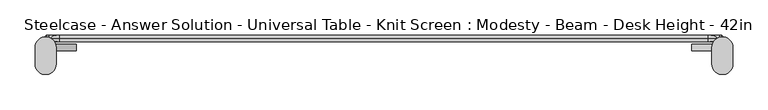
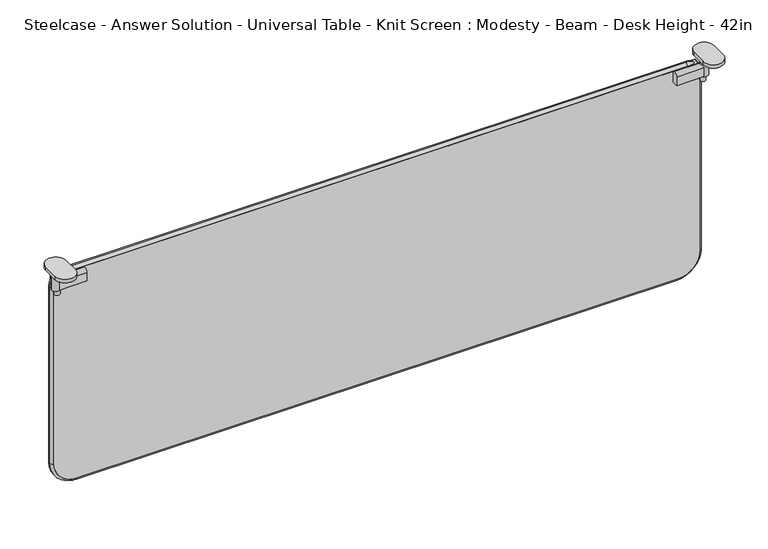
"""IFC4 building model written with IfcOpenShell, lengths in millimetres: furniture geometry, Steelcase - Answer Solution - Universal Table - Knit Screen : Modesty - Beam - Desk Height - 42in."""

from ifc_helpers import new_model, si_unit, point, frame, frame_2d, origin, place, context, project, spatial, polyline, circle_curve, ellipse_curve, trimmed, segment, composite_curve, outline, extrude, source, transform, mapped, element, save
from ifc_brep_helpers import plane_surface, cylinder_surface, revolved_surface, advanced_brep


def steelcase_answer_solution_universal_table_knit_screen_46a00a25(model_context):
    return source(origin(), model_context, "Body", "SolidModel", [
        extrude(outline(composite_curve([segment(polyline([(-29.128946, 557.1716837), (-29.128946, 570.5329841)]), True, "CONTINUOUS"), segment(trimmed(circle_curve(frame_2d((-24.4350465, 570.5329841)), 4.6938995), [point((-29.128946, 570.5329841))], [point((-19.7411469, 570.5329841))], False, "CARTESIAN"), True, "CONTINUOUS"), segment(polyline([(-19.7411469, 570.5329841), (-19.7411469, 557.1716837), (-29.128946, 557.1716837)]), True, "CONTINUOUS")], self_intersect=False)), frame((969.0167228, 0.0, 0.0), z_axis=(1.0, 0.0, 0.0), x_axis=(0.0, 1.0, 0.0)), (0.0, 0.0, 1.0), 43.5285515),
        extrude(outline(composite_curve([segment(trimmed(circle_curve(frame_2d((1010.6143327, -24.4352196)), 3.96875), [point((1014.5830827, -24.4352196))], [point((1006.6455827, -24.4352196))], False, "CARTESIAN"), True, "CONTINUOUS"), segment(trimmed(circle_curve(frame_2d((1010.6143327, -24.4352196)), 3.96875), [point((1006.6455827, -24.4352196))], [point((1014.5830827, -24.4352196))], False, "CARTESIAN"), True, "CONTINUOUS")], self_intersect=False)), frame((0.0, 0.0, 549.0915626), z_axis=(0.0, 0.0, 1.0), x_axis=(1.0, 0.0, 0.0)), (0.0, 0.0, 1.0), 8.0801211),
        extrude(outline(composite_curve([segment(trimmed(circle_curve(frame_2d((1012.5452743, -24.4352196)), 5.8800133), [point((1018.4252876, -24.4352196))], [point((1006.665261, -24.4352196))], False, "CARTESIAN"), True, "CONTINUOUS"), segment(trimmed(circle_curve(frame_2d((1012.5452743, -24.4352196)), 5.8800133), [point((1006.665261, -24.4352196))], [point((1018.4252876, -24.4352196))], False, "CARTESIAN"), True, "CONTINUOUS")], self_intersect=False)), frame((0.0, 0.0, 557.1716837), z_axis=(0.0, 0.0, 1.0), x_axis=(1.0, 0.0, 0.0)), (0.0, 0.0, 1.0), 34.3007611),
        extrude(outline(composite_curve([segment(polyline([(1027.601332, -24.6349615), (1027.601332, -48.0866189)]), True, "CONTINUOUS"), segment(trimmed(circle_curve(frame_2d((1012.545565, -48.0866189)), 15.0557671), [point((1027.601332, -48.0866189))], [point((997.4897979, -48.0866189))], False, "CARTESIAN"), True, "CONTINUOUS"), segment(polyline([(997.4897979, -48.0866189), (997.4897979, -24.6349615)]), True, "CONTINUOUS"), segment(trimmed(circle_curve(frame_2d((1012.545565, -24.6349615)), 15.0557671), [point((997.4897979, -24.6349615))], [point((1027.601332, -24.6349615))], False, "CARTESIAN"), True, "CONTINUOUS")], self_intersect=False)), frame((0.0, 0.0, 591.4724448), z_axis=(0.0, 0.0, 1.0), x_axis=(1.0, 0.0, 0.0)), (0.0, 0.0, 1.0), 5.4275552),
        extrude(outline(composite_curve([segment(polyline([(-29.128946, 557.1716837), (-29.128946, 570.5329841)]), True, "CONTINUOUS"), segment(trimmed(circle_curve(frame_2d((-24.4350465, 570.5329841)), 4.6938995), [point((-29.128946, 570.5329841))], [point((-19.7411469, 570.5329841))], False, "CARTESIAN"), True, "CONTINUOUS"), segment(polyline([(-19.7411469, 570.5329841), (-19.7411469, 557.1716837), (-29.128946, 557.1716837)]), True, "CONTINUOUS")], self_intersect=False)), frame((47.6108911, 0.0, 0.0), z_axis=(1.0, 0.0, 0.0), x_axis=(0.0, 1.0, 0.0)), (0.0, 0.0, 1.0), 43.5285515),
        extrude(outline(composite_curve([segment(trimmed(circle_curve(frame_2d((49.5418327, -24.4352196)), 3.96875), [point((45.5730827, -24.4352196))], [point((53.5105827, -24.4352196))], False, "CARTESIAN"), True, "CONTINUOUS"), segment(trimmed(circle_curve(frame_2d((49.5418327, -24.4352196)), 3.96875), [point((53.5105827, -24.4352196))], [point((45.5730827, -24.4352196))], False, "CARTESIAN"), True, "CONTINUOUS")], self_intersect=False)), frame((0.0, 0.0, 549.0915626), z_axis=(0.0, 0.0, 1.0), x_axis=(1.0, 0.0, 0.0)), (0.0, 0.0, 1.0), 8.0801211),
        extrude(outline(composite_curve([segment(trimmed(circle_curve(frame_2d((47.6108911, -24.4352196)), 5.8800133), [point((41.7308778, -24.4352196))], [point((53.4909043, -24.4352196))], False, "CARTESIAN"), True, "CONTINUOUS"), segment(trimmed(circle_curve(frame_2d((47.6108911, -24.4352196)), 5.8800133), [point((53.4909043, -24.4352196))], [point((41.7308778, -24.4352196))], False, "CARTESIAN"), True, "CONTINUOUS")], self_intersect=False)), frame((0.0, 0.0, 557.1716837), z_axis=(0.0, 0.0, 1.0), x_axis=(1.0, 0.0, 0.0)), (0.0, 0.0, 1.0), 34.3007611),
        extrude(outline(composite_curve([segment(trimmed(circle_curve(frame_2d((47.6106004, -24.6349615)), 15.0557671), [point((32.5548333, -24.6349615))], [point((62.6663674, -24.6349615))], False, "CARTESIAN"), True, "CONTINUOUS"), segment(polyline([(62.6663674, -24.6349615), (62.6663674, -48.0866189)]), True, "CONTINUOUS"), segment(trimmed(circle_curve(frame_2d((47.6106004, -48.0866189)), 15.0557671), [point((62.6663674, -48.0866189))], [point((32.5548333, -48.0866189))], False, "CARTESIAN"), True, "CONTINUOUS"), segment(polyline([(32.5548333, -48.0866189), (32.5548333, -24.6349615)]), True, "CONTINUOUS")], self_intersect=False)), frame((0.0, 0.0, 591.4724448), z_axis=(0.0, 0.0, 1.0), x_axis=(1.0, 0.0, 0.0)), (0.0, 0.0, 1.0), 5.4275552),
        extrude(outline(composite_curve([segment(trimmed(circle_curve(frame_2d((275.3734529, 977.5969049)), 33.0004615), [point((242.3729913, 977.5969049))], [point((275.3734529, 1010.5973664))], False, "CARTESIAN"), True, "CONTINUOUS"), segment(polyline([(275.3734529, 1010.5973664), (568.7143507, 1010.5973664)]), True, "CONTINUOUS"), segment(trimmed(circle_curve(frame_2d((568.7143507, 1007.7924906)), 2.8048758), [point((568.7143507, 1010.5973664))], [point((571.5192266, 1007.7924906))], False, "CARTESIAN"), True, "CONTINUOUS"), segment(polyline([(571.5192266, 1007.7924906), (571.5192266, 51.8743664)]), True, "CONTINUOUS"), segment(trimmed(circle_curve(frame_2d((569.2036591, 51.8743664)), 2.3155675), [point((571.5192266, 51.8743664))], [point((569.2036591, 49.5587989))], False, "CARTESIAN"), True, "CONTINUOUS"), segment(polyline([(569.2036591, 49.5587989), (276.2900738, 49.5587989)]), True, "CONTINUOUS"), segment(trimmed(circle_curve(frame_2d((276.2900738, 83.4758814)), 33.9170825), [point((276.2900738, 49.5587989))], [point((242.3729913, 83.4758814))], False, "CARTESIAN"), True, "CONTINUOUS"), segment(polyline([(242.3729913, 83.4758814), (242.3729913, 977.5969049)]), True, "CONTINUOUS")], self_intersect=False)), frame((0.0, -16.5783031, 0.0), z_axis=(0.0, 1.0, 0.0), x_axis=(0.0, 0.0, 1.0)), (0.0, 0.0, 1.0), 9.6878455),
        advanced_brep(
        [(45.5730839, -11.7343804, 554.0906591), (66.9873664, -11.7343804, 575.5049416), (66.9873664, -6.8904577, 571.5192266), (49.5587989, -6.8904577, 554.0906591), (49.5587989, -16.5783031, 554.0906591), (66.9873664, -16.5783031, 571.5192266), (49.5587989, -6.8904577, 276.2900738), (45.5730839, -11.7343804, 276.2900738), (49.5587989, -16.5783031, 276.2900738), (83.4758814, -11.7343804, 238.3872763), (83.4758814, -6.8904577, 242.3729913), (83.4758814, -16.5783031, 242.3729913), (977.5969049, -6.8904577, 242.3729913), (977.5969049, -11.7343804, 238.3872763), (977.5969049, -16.5783031, 242.3729913), (1014.5830815, -11.7343804, 275.3734529), (1010.5973664, -6.8904577, 275.3734529), (1010.5973664, -16.5783031, 275.3734529), (1010.5973664, -6.8904577, 553.6013507), (1014.5830815, -11.7343804, 553.6013507), (1010.5973664, -16.5783031, 553.6013507), (992.6794906, -11.7343804, 575.5049416), (992.6794906, -6.8904577, 571.5192266), (992.6794906, -16.5783031, 571.5192266)],
        [
            (0, 1, circle_curve(frame((66.9873664, -11.7343804, 554.0906591), z_axis=(0.0, 1.0, 0.0), x_axis=(0.0, 0.0, 1.0)), 21.4142825)),
            (1, 2, circle_curve(frame((66.9873664, -11.7343804, 570.5686238), z_axis=(-1.0, 0.0, 0.0), x_axis=(0.0, 0.0, 1.0)), 4.9363178)),
            (2, 3, circle_curve(frame((66.9873664, -6.8904577, 554.0906591), z_axis=(0.0, -1.0, 0.0), x_axis=(0.0, 0.0, 1.0)), 17.4285675)),
            (3, 0, circle_curve(frame((50.5094016, -11.7343804, 554.0906591), z_axis=(0.0, 0.0, 1.0), x_axis=(-1.0, 0.0, 0.0)), 4.9363178)),
            (4, 5, circle_curve(frame((66.9873664, -16.5783031, 554.0906591), z_axis=(0.0, 1.0, 0.0), x_axis=(0.0, 0.0, 1.0)), 17.4285675)),
            (5, 1, circle_curve(frame((66.9873664, -11.7343804, 570.5686238), z_axis=(-1.0, 0.0, 0.0), x_axis=(0.0, 0.0, 1.0)), 4.9363178)),
            (0, 4, circle_curve(frame((50.5094016, -11.7343804, 554.0906591), z_axis=(0.0, 0.0, 1.0), x_axis=(-1.0, 0.0, 0.0)), 4.9363178)),
            (2, 5),
            (4, 3),
            (3, 6),
            (6, 7, circle_curve(frame((50.5094016, -11.7343804, 276.2900738), z_axis=(0.0, 0.0, 1.0), x_axis=(-1.0, 0.0, 0.0)), 4.9363178)),
            (7, 0),
            (7, 8, circle_curve(frame((50.5094016, -11.7343804, 276.2900738), z_axis=(0.0, 0.0, 1.0), x_axis=(-1.0, 0.0, 0.0)), 4.9363178)),
            (8, 4),
            (8, 6),
            (9, 7, circle_curve(frame((83.4758814, -11.7343804, 276.2900738), z_axis=(0.0, 1.0, 0.0), x_axis=(-1.0, 0.0, 0.0)), 37.9027975)),
            (6, 10, circle_curve(frame((83.4758814, -6.8904577, 276.2900738), z_axis=(0.0, -1.0, 0.0), x_axis=(-1.0, 0.0, 0.0)), 33.9170825)),
            (10, 9, circle_curve(frame((83.4758814, -11.7343804, 243.323594), z_axis=(-1.0, 0.0, 0.0), x_axis=(0.0, 0.0, -1.0)), 4.9363178)),
            (11, 8, circle_curve(frame((83.4758814, -16.5783031, 276.2900738), z_axis=(0.0, 1.0, 0.0), x_axis=(-1.0, 0.0, 0.0)), 33.9170825)),
            (9, 11, circle_curve(frame((83.4758814, -11.7343804, 243.323594), z_axis=(-1.0, 0.0, 0.0), x_axis=(0.0, 0.0, -1.0)), 4.9363178)),
            (11, 10),
            (10, 12),
            (12, 13, circle_curve(frame((977.5969049, -11.7343804, 243.323594), z_axis=(-1.0, 0.0, 0.0), x_axis=(0.0, 0.0, -1.0)), 4.9363178)),
            (13, 9),
            (13, 14, circle_curve(frame((977.5969049, -11.7343804, 243.323594), z_axis=(-1.0, 0.0, 0.0), x_axis=(0.0, 0.0, -1.0)), 4.9363178)),
            (14, 11),
            (14, 12),
            (15, 13, circle_curve(frame((977.5969049, -11.7343804, 275.3734529), z_axis=(0.0, 1.0, 0.0), x_axis=(0.0, 0.0, -1.0)), 36.9861766)),
            (12, 16, circle_curve(frame((977.5969049, -6.8904577, 275.3734529), z_axis=(0.0, -1.0, 0.0), x_axis=(0.0, 0.0, -1.0)), 33.0004615)),
            (16, 15, circle_curve(frame((1009.6467637, -11.7343804, 275.3734529), z_axis=(0.0, 0.0, -1.0), x_axis=(1.0, 0.0, 0.0)), 4.9363178)),
            (17, 14, circle_curve(frame((977.5969049, -16.5783031, 275.3734529), z_axis=(0.0, 1.0, 0.0), x_axis=(0.0, 0.0, -1.0)), 33.0004615)),
            (15, 17, circle_curve(frame((1009.6467637, -11.7343804, 275.3734529), z_axis=(0.0, 0.0, -1.0), x_axis=(1.0, 0.0, 0.0)), 4.9363178)),
            (17, 16),
            (16, 18),
            (18, 19, circle_curve(frame((1009.6467637, -11.7343804, 553.6013507), z_axis=(0.0, 0.0, -1.0), x_axis=(1.0, 0.0, 0.0)), 4.9363178)),
            (19, 15),
            (19, 20, circle_curve(frame((1009.6467637, -11.7343804, 553.6013507), z_axis=(0.0, 0.0, -1.0), x_axis=(1.0, 0.0, 0.0)), 4.9363178)),
            (20, 17),
            (20, 18),
            (21, 19, circle_curve(frame((992.6794906, -11.7343804, 553.6013507), z_axis=(0.0, 1.0, 0.0), x_axis=(1.0, 0.0, 0.0)), 21.9035909)),
            (18, 22, circle_curve(frame((992.6794906, -6.8904577, 553.6013507), z_axis=(0.0, -1.0, 0.0), x_axis=(1.0, 0.0, 0.0)), 17.9178758)),
            (22, 21, circle_curve(frame((992.6794906, -11.7343804, 570.5686238), z_axis=(1.0, 0.0, 0.0), x_axis=(0.0, 0.0, 1.0)), 4.9363178)),
            (23, 20, circle_curve(frame((992.6794906, -16.5783031, 553.6013507), z_axis=(0.0, 1.0, 0.0), x_axis=(1.0, 0.0, 0.0)), 17.9178758)),
            (21, 23, circle_curve(frame((992.6794906, -11.7343804, 570.5686238), z_axis=(1.0, 0.0, 0.0), x_axis=(0.0, 0.0, 1.0)), 4.9363178)),
            (23, 22),
            (22, 2),
            (1, 21),
            (5, 23),
        ],
        [
            revolved_surface(trimmed(ellipse_curve(frame((66.9873664, -11.7343804, 570.5686238), z_axis=(1.0, 0.0, 0.0), x_axis=(0.0, 0.0, 1.0)), 4.9363178, 4.9363178), [point((66.9873664, -6.8904577, 571.5192266))], [point((66.9873664, -11.7343804, 575.5049416))], True, "CARTESIAN"), (66.9873664, -11.7343804, 554.0906591), (0.0, -1.0, 0.0)),
            revolved_surface(trimmed(ellipse_curve(frame((66.9873664, -11.7343804, 570.5686238), z_axis=(1.0, 0.0, 0.0), x_axis=(0.0, 0.0, 1.0)), 4.9363178, 4.9363178), [point((66.9873664, -11.7343804, 575.5049416))], [point((66.9873664, -16.5783031, 571.5192266))], True, "CARTESIAN"), (66.9873664, -11.7343804, 554.0906591), (0.0, -1.0, 0.0)),
            revolved_surface(polyline([(66.9873664, -16.5783031, 571.5192266), (66.9873664, -6.8904577, 571.5192266)]), (66.9873664, -11.7343804, 554.0906591), (0.0, -1.0, 0.0)),
            cylinder_surface(frame((50.5094016, -11.7343804, 554.0906591), z_axis=(0.0, 0.0, 1.0), x_axis=(-1.0, 0.0, 0.0)), 4.9363178),
            plane_surface(frame((49.5587989, -16.5783031, 554.0906591), z_axis=(1.0, 0.0, 0.0), x_axis=(0.0, 0.0, -1.0))),
            revolved_surface(trimmed(ellipse_curve(frame((50.5094016, -11.7343804, 276.2900738), z_axis=(0.0, 0.0, 1.0), x_axis=(-1.0, 0.0, 0.0)), 4.9363178, 4.9363178), [point((49.5587989, -6.8904577, 276.2900738))], [point((45.5730839, -11.7343804, 276.2900738))], True, "CARTESIAN"), (83.4758814, -11.7343804, 276.2900738), (0.0, -1.0, 0.0)),
            revolved_surface(trimmed(ellipse_curve(frame((50.5094016, -11.7343804, 276.2900738), z_axis=(0.0, 0.0, 1.0), x_axis=(-1.0, 0.0, 0.0)), 4.9363178, 4.9363178), [point((45.5730839, -11.7343804, 276.2900738))], [point((49.5587989, -16.5783031, 276.2900738))], True, "CARTESIAN"), (83.4758814, -11.7343804, 276.2900738), (0.0, -1.0, 0.0)),
            revolved_surface(polyline([(49.558798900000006, -16.5783031, 276.2900738), (49.558798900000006, -6.8904577, 276.2900738)]), (83.4758814, -11.7343804, 276.2900738), (0.0, -1.0, 0.0)),
            cylinder_surface(frame((83.4758814, -11.7343804, 243.323594), z_axis=(-1.0, 0.0, 0.0), x_axis=(0.0, 0.0, -1.0)), 4.9363178),
            plane_surface(frame((83.4758814, -16.5783031, 242.3729913), z_axis=(0.0, 0.0, 1.0), x_axis=(1.0, 0.0, 0.0))),
            revolved_surface(trimmed(ellipse_curve(frame((977.5969049, -11.7343804, 243.323594), z_axis=(-1.0, 0.0, 0.0), x_axis=(0.0, 0.0, -1.0)), 4.9363178, 4.9363178), [point((977.5969049, -6.8904577, 242.3729913))], [point((977.5969049, -11.7343804, 238.3872763))], True, "CARTESIAN"), (977.5969049, -11.7343804, 275.3734529), (0.0, -1.0, 0.0)),
            revolved_surface(trimmed(ellipse_curve(frame((977.5969049, -11.7343804, 243.323594), z_axis=(-1.0, 0.0, 0.0), x_axis=(0.0, 0.0, -1.0)), 4.9363178, 4.9363178), [point((977.5969049, -11.7343804, 238.3872763))], [point((977.5969049, -16.5783031, 242.3729913))], True, "CARTESIAN"), (977.5969049, -11.7343804, 275.3734529), (0.0, -1.0, 0.0)),
            revolved_surface(polyline([(977.5969049, -16.5783031, 242.37299140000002), (977.5969049, -6.8904577, 242.37299140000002)]), (977.5969049, -11.7343804, 275.3734529), (0.0, -1.0, 0.0)),
            cylinder_surface(frame((1009.6467637, -11.7343804, 275.3734529), z_axis=(0.0, 0.0, -1.0), x_axis=(1.0, 0.0, 0.0)), 4.9363178),
            plane_surface(frame((1010.5973664, -16.5783031, 275.3734529), z_axis=(-1.0, 0.0, 0.0), x_axis=(0.0, 0.0, 1.0))),
            revolved_surface(trimmed(ellipse_curve(frame((1009.6467637, -11.7343804, 553.6013507), z_axis=(0.0, 0.0, -1.0), x_axis=(1.0, 0.0, 0.0)), 4.9363178, 4.9363178), [point((1010.5973664, -6.8904577, 553.6013507))], [point((1014.5830815, -11.7343804, 553.6013507))], True, "CARTESIAN"), (992.6794906, -11.7343804, 553.6013507), (0.0, -1.0, 0.0)),
            revolved_surface(trimmed(ellipse_curve(frame((1009.6467637, -11.7343804, 553.6013507), z_axis=(0.0, 0.0, -1.0), x_axis=(1.0, 0.0, 0.0)), 4.9363178, 4.9363178), [point((1014.5830815, -11.7343804, 553.6013507))], [point((1010.5973664, -16.5783031, 553.6013507))], True, "CARTESIAN"), (992.6794906, -11.7343804, 553.6013507), (0.0, -1.0, 0.0)),
            revolved_surface(polyline([(1010.5973664, -16.5783031, 553.6013507), (1010.5973664, -6.8904577, 553.6013507)]), (992.6794906, -11.7343804, 553.6013507), (0.0, -1.0, 0.0)),
            cylinder_surface(frame((992.6794906, -11.7343804, 570.5686238), z_axis=(1.0, 0.0, 0.0), x_axis=(0.0, 0.0, 1.0)), 4.9363178),
            plane_surface(frame((992.6794906, -16.5783031, 571.5192266), z_axis=(0.0, 0.0, -1.0), x_axis=(-1.0, 0.0, 0.0))),
        ],
        [
            (0, [[1, 2, 3, 4]]),
            (1, [[5, 6, -1, 7]]),
            (2, [[-3, 8, -5, 9]]),
            (3, [[-4, 10, 11, 12]]),
            (3, [[-7, -12, 13, 14]]),
            (4, [[-9, -14, 15, -10]]),
            (5, [[16, -11, 17, 18]]),
            (6, [[19, -13, -16, 20]]),
            (7, [[-17, -15, -19, 21]]),
            (8, [[-18, 22, 23, 24]]),
            (8, [[-20, -24, 25, 26]]),
            (9, [[-21, -26, 27, -22]]),
            (10, [[28, -23, 29, 30]]),
            (11, [[31, -25, -28, 32]]),
            (12, [[-29, -27, -31, 33]]),
            (13, [[-30, 34, 35, 36]]),
            (13, [[-32, -36, 37, 38]]),
            (14, [[-33, -38, 39, -34]]),
            (15, [[40, -35, 41, 42]]),
            (16, [[43, -37, -40, 44]]),
            (17, [[-41, -39, -43, 45]]),
            (18, [[-42, 46, -2, 47]]),
            (18, [[-44, -47, -6, 48]]),
            (19, [[-45, -48, -8, -46]]),
        ],
    ),
    ])


if __name__ == "__main__":
    model = new_model("IFC4")
    model_context = context("Model", 3, world=origin())
    ifc_project = project(units=[si_unit("LENGTHUNIT", "METRE", prefix="MILLI")], contexts=[model_context])
    site = spatial("IfcSite", under=ifc_project)
    building = spatial("IfcBuilding", under=site)
    placement = place(None, origin())
    steelcase_answer_solution_universal_table_knit_screen_shape = steelcase_answer_solution_universal_table_knit_screen_46a00a25(model_context)
    element("IfcFurniture", 1, ObjectType="Steelcase - Answer Solution - Universal Table - Knit Screen : Modesty - Beam - Desk Height - 42in", at=placement, inside=building, context=model_context, shape_type="MappedRepresentation", body=[
        mapped(steelcase_answer_solution_universal_table_knit_screen_shape, transform((0.0, 0.0, 0.0), x_axis=(1.0, 0.0, 0.0), y_axis=(0.0, 1.0, 0.0), z_axis=(0.0, 0.0, 1.0))),
    ])
    save(model, "model.ifc")
